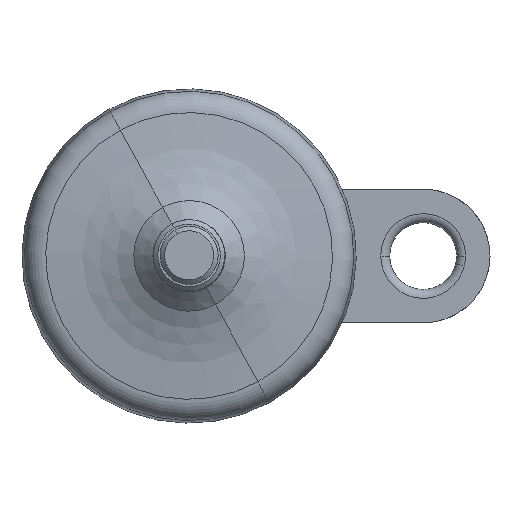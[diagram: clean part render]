
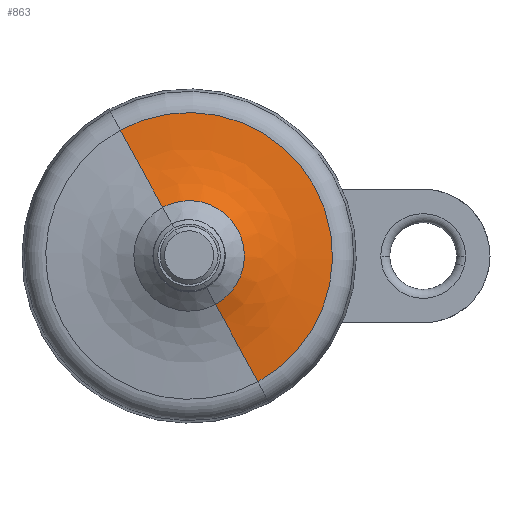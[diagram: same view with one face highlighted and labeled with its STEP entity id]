
A CAD part, top view. The second image highlights one B-rep face of the part: STEP entity #863.
In plain terms, the highlighted face is a revolution surface.
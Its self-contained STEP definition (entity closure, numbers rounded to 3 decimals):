
#539=EDGE_CURVE('',#1452,#1453,#1454,.T.);
#863=ADVANCED_FACE('',(#1944),#1945,.T.);
#881=EDGE_CURVE('',#1830,#1452,#1965,.F.);
#1109=EDGE_CURVE('',#1830,#1609,#2267,.T.);
#1133=EDGE_CURVE('',#1609,#1453,#2298,.F.);
#1452=VERTEX_POINT('',#2699);
#1453=VERTEX_POINT('',#2700);
#1454=CIRCLE('',#2701,9.0);
#1609=VERTEX_POINT('',#2935);
#1830=VERTEX_POINT('',#3244);
#1944=FACE_OUTER_BOUND('',#3397,.T.);
#1945=SURFACE_OF_REVOLUTION('',#3398,#3399);
#1965=CIRCLE('',#3428,50.0);
#2267=CIRCLE('',#3864,32.172);
#2298=CIRCLE('',#3906,50.0);
#2699=CARTESIAN_POINT('',(4.315,-7.898,22.602));
#2700=CARTESIAN_POINT('',(-4.315,7.898,22.602));
#2701=AXIS2_PLACEMENT_3D('',#4304,#4305,#4306);
#2935=CARTESIAN_POINT('',(-15.424,28.233,15.997));
#3244=CARTESIAN_POINT('',(15.424,-28.233,15.997));
#3397=EDGE_LOOP('',(#5017,#5018,#5019,#5020));
#3398=B_SPLINE_CURVE_WITH_KNOTS('',4,(#5021,#5022,#5023,#5024,#5025),.UNSPECIFIED.,.F.,.F.,(5,5),(-104.591,-80.257),.UNSPECIFIED.);
#3399=AXIS1_PLACEMENT('',#5026,#5027);
#3428=AXIS2_PLACEMENT_3D('',#5058,#5059,#5060);
#3864=AXIS2_PLACEMENT_3D('',#5564,#5565,#5566);
#3906=AXIS2_PLACEMENT_3D('',#5615,#5616,#5617);
#4304=CARTESIAN_POINT('',(0.0,0.0,22.602));
#4305=DIRECTION('',(0.0,0.0,1.0));
#4306=DIRECTION('',(1.0,0.0,0.0));
#5017=ORIENTED_EDGE('',*,*,#1133,.T.);
#5018=ORIENTED_EDGE('',*,*,#539,.F.);
#5019=ORIENTED_EDGE('',*,*,#881,.F.);
#5020=ORIENTED_EDGE('',*,*,#1109,.T.);
#5021=CARTESIAN_POINT('',(-4.315,7.898,22.602));
#5022=CARTESIAN_POINT('',(-6.844,12.529,19.574));
#5023=CARTESIAN_POINT('',(-9.61,17.591,17.401));
#5024=CARTESIAN_POINT('',(-12.509,22.898,16.206));
#5025=CARTESIAN_POINT('',(-15.424,28.233,15.997));
#5026=CARTESIAN_POINT('',(0.0,0.0,22.602));
#5027=DIRECTION('',(-0.0,-0.0,-1.0));
#5058=CARTESIAN_POINT('',(16.247,-29.74,65.968));
#5059=DIRECTION('',(-0.878,-0.479,0.0));
#5060=DIRECTION('',(0.479,-0.878,0.0));
#5564=CARTESIAN_POINT('',(0.0,0.0,15.997));
#5565=DIRECTION('',(0.0,0.0,1.0));
#5566=DIRECTION('',(1.0,0.0,0.0));
#5615=CARTESIAN_POINT('',(-16.247,29.74,65.968));
#5616=DIRECTION('',(0.878,0.479,0.0));
#5617=DIRECTION('',(0.479,-0.878,0.0));
